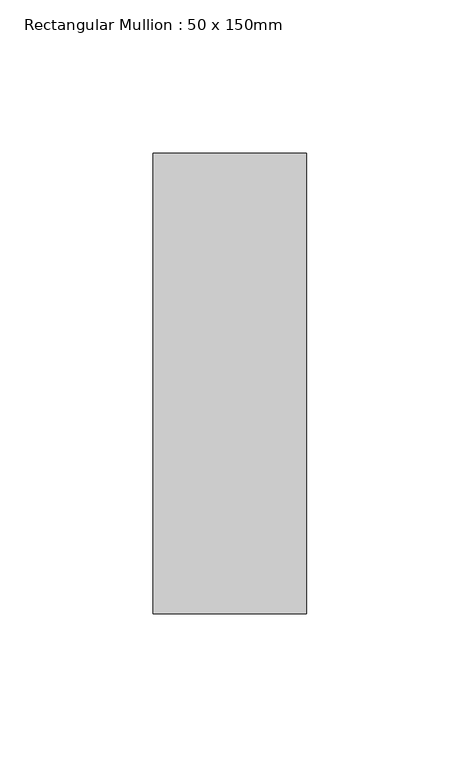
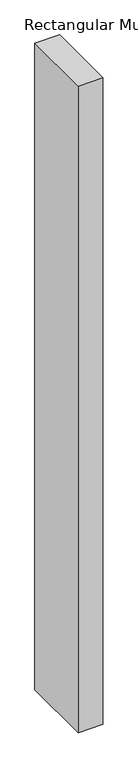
"""IFC4 building model written with IfcOpenShell, lengths in millimetres: member geometry, Rectangular Mullion : 50 x 150mm."""

from ifc_helpers import new_model, si_unit, frame, origin, place, context, project, spatial, polyline, outline, extrude, source, transform, mapped, element, save


def rectangular_mullion_50_x_150mm_5a2b04db(model_context):
    return source(origin(), model_context, "Body", "SweptSolid", [
        extrude(outline(polyline([(0.0, 75.0), (0.0, -75.0), (-50.0, -75.0), (-50.0, 75.0), (0.0, 75.0)])), frame((0.0, 0.0, -1372.3999998), z_axis=(0.0, 0.0, 1.0), x_axis=(1.0, 0.0, 0.0)), (0.0, 0.0, 1.0), 1372.3999998),
    ])


if __name__ == "__main__":
    model = new_model("IFC4")
    model_context = context("Model", 3, world=origin())
    ifc_project = project(units=[si_unit("LENGTHUNIT", "METRE", prefix="MILLI")], contexts=[model_context])
    site = spatial("IfcSite", under=ifc_project)
    building = spatial("IfcBuilding", under=site)
    placement = place(None, origin())
    rectangular_mullion_50_x_150mm_shape = rectangular_mullion_50_x_150mm_5a2b04db(model_context)
    element("IfcMember", 1, ObjectType="Rectangular Mullion : 50 x 150mm", at=placement, inside=building, context=model_context, shape_type="MappedRepresentation", body=[
        mapped(rectangular_mullion_50_x_150mm_shape, transform((0.0, 0.0, 0.0), x_axis=(1.0, 0.0, 0.0), y_axis=(0.0, 1.0, 0.0), z_axis=(0.0, 0.0, 1.0))),
    ])
    save(model, "model.ifc")
